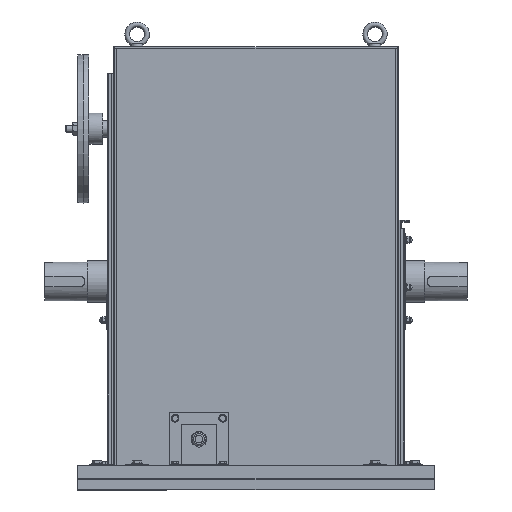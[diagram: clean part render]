
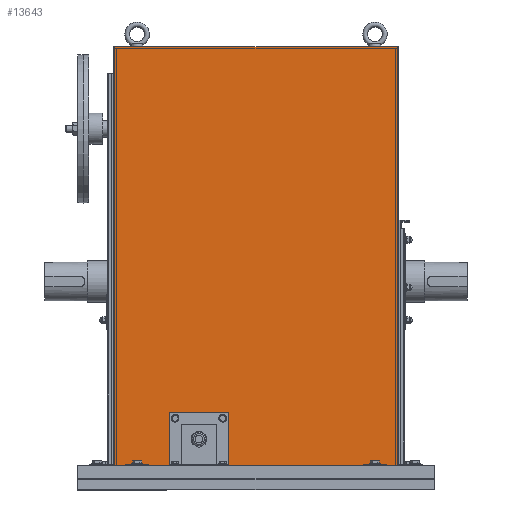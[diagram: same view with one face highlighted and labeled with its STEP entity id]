
A CAD part, top view. The second image highlights one B-rep face of the part: STEP entity #13643.
In plain terms, the highlighted planar face has unit normal (0, 0, 1).
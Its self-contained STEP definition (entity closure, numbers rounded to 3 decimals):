
#210 = VERTEX_POINT ( 'NONE', #5750 ) ;
#213 = VECTOR ( 'NONE', #25120, 1000. ) ;
#263 = EDGE_CURVE ( 'NONE', #29080, #210, #25592, .T. ) ;
#364 = VECTOR ( 'NONE', #23050, 1000. ) ;
#394 = CARTESIAN_POINT ( 'NONE',  ( 135., -308.2, 310. ) ) ;
#468 = PLANE ( 'NONE',  #2268 ) ;
#647 = EDGE_CURVE ( 'NONE', #14310, #11467, #23183, .T. ) ;
#648 = DIRECTION ( 'NONE',  ( -1., 0., 0. ) ) ;
#1472 = DIRECTION ( 'NONE',  ( 1., 0., 0. ) ) ;
#1512 = VECTOR ( 'NONE', #3067, 1000. ) ;
#1843 = ORIENTED_EDGE ( 'NONE', *, *, #28570, .T. ) ;
#1923 = CARTESIAN_POINT ( 'NONE',  ( 117.3, -310.5, 310. ) ) ;
#2268 = AXIS2_PLACEMENT_3D ( 'NONE', #25493, #9207, #22829 ) ;
#2277 = LINE ( 'NONE', #13532, #17997 ) ;
#2788 = CARTESIAN_POINT ( 'NONE',  ( 135., -310.5, 310. ) ) ;
#2888 = CARTESIAN_POINT ( 'NONE',  ( 175., -308.2, 310. ) ) ;
#2989 = CARTESIAN_POINT ( 'NONE',  ( 209., -310.5, 310. ) ) ;
#3067 = DIRECTION ( 'NONE',  ( 1., 0., 0. ) ) ;
#3277 = VECTOR ( 'NONE', #23341, 1000. ) ;
#3339 = VECTOR ( 'NONE', #1472, 1000. ) ;
#3530 = VECTOR ( 'NONE', #14129, 1000. ) ;
#3539 = VECTOR ( 'NONE', #7291, 1000. ) ;
#3541 = VERTEX_POINT ( 'NONE', #15079 ) ;
#4255 = CARTESIAN_POINT ( 'NONE',  ( 117.3, -310.5, 310. ) ) ;
#4289 = CARTESIAN_POINT ( 'NONE',  ( 175., -308.2, 310. ) ) ;
#4370 = CARTESIAN_POINT ( 'NONE',  ( 535., -308.2, 310. ) ) ;
#5104 = LINE ( 'NONE', #16656, #3530 ) ;
#5152 = ORIENTED_EDGE ( 'NONE', *, *, #5873, .T. ) ;
#5211 = CARTESIAN_POINT ( 'NONE',  ( 209., -220.5, 310. ) ) ;
#5231 = VECTOR ( 'NONE', #18623, 1000. ) ;
#5750 = CARTESIAN_POINT ( 'NONE',  ( 535., -310.5, 310. ) ) ;
#5873 = EDGE_CURVE ( 'NONE', #19861, #23997, #20769, .T. ) ;
#6329 = DIRECTION ( 'NONE',  ( 0., 1., 0. ) ) ;
#6416 = ORIENTED_EDGE ( 'NONE', *, *, #13320, .T. ) ;
#6628 = LINE ( 'NONE', #9432, #8134 ) ;
#6767 = CARTESIAN_POINT ( 'NONE',  ( 309., -310.5, 310. ) ) ;
#6787 = ORIENTED_EDGE ( 'NONE', *, *, #24002, .F. ) ;
#7196 = EDGE_CURVE ( 'NONE', #16390, #23096, #2277, .T. ) ;
#7291 = DIRECTION ( 'NONE',  ( 0., 1., 0. ) ) ;
#8134 = VECTOR ( 'NONE', #13577, 1000. ) ;
#9207 = DIRECTION ( 'NONE',  ( 0., 0., -1. ) ) ;
#9310 = DIRECTION ( 'NONE',  ( 0., -1., 0. ) ) ;
#9432 = CARTESIAN_POINT ( 'NONE',  ( 117.3, -310.5, 310. ) ) ;
#9803 = FACE_OUTER_BOUND ( 'NONE', #20287, .T. ) ;
#9896 = VECTOR ( 'NONE', #9310, 1000. ) ;
#10437 = VERTEX_POINT ( 'NONE', #2989 ) ;
#11213 = CARTESIAN_POINT ( 'NONE',  ( 592.7, 394.5, 310. ) ) ;
#11467 = VERTEX_POINT ( 'NONE', #4289 ) ;
#11883 = CARTESIAN_POINT ( 'NONE',  ( 592.7, -310.5, 310. ) ) ;
#11964 = CARTESIAN_POINT ( 'NONE',  ( 535., -308.2, 310. ) ) ;
#13264 = VECTOR ( 'NONE', #20239, 1000. ) ;
#13320 = EDGE_CURVE ( 'NONE', #11467, #21234, #21117, .T. ) ;
#13532 = CARTESIAN_POINT ( 'NONE',  ( 209., -220.5, 310. ) ) ;
#13577 = DIRECTION ( 'NONE',  ( 1., 0., 0. ) ) ;
#13643 = ADVANCED_FACE ( 'NONE', ( #9803 ), #468, .F. ) ;
#13648 = DIRECTION ( 'NONE',  ( 1., 0., 0. ) ) ;
#13818 = VERTEX_POINT ( 'NONE', #1923 ) ;
#14129 = DIRECTION ( 'NONE',  ( 1., 0., 0. ) ) ;
#14310 = VERTEX_POINT ( 'NONE', #394 ) ;
#14332 = CARTESIAN_POINT ( 'NONE',  ( 117.3, -310.5, 310. ) ) ;
#14390 = EDGE_CURVE ( 'NONE', #23087, #210, #20829, .T. ) ;
#15079 = CARTESIAN_POINT ( 'NONE',  ( 575., -310.5, 310. ) ) ;
#16390 = VERTEX_POINT ( 'NONE', #18147 ) ;
#16549 = CARTESIAN_POINT ( 'NONE',  ( 592.7, -310.5, 310. ) ) ;
#16656 = CARTESIAN_POINT ( 'NONE',  ( 117.3, -310.5, 310. ) ) ;
#17322 = ORIENTED_EDGE ( 'NONE', *, *, #7196, .F. ) ;
#17772 = ORIENTED_EDGE ( 'NONE', *, *, #27031, .F. ) ;
#17806 = LINE ( 'NONE', #26839, #24179 ) ;
#17869 = LINE ( 'NONE', #4255, #18955 ) ;
#17997 = VECTOR ( 'NONE', #648, 1000. ) ;
#18147 = CARTESIAN_POINT ( 'NONE',  ( 309., -220.5, 310. ) ) ;
#18263 = ORIENTED_EDGE ( 'NONE', *, *, #647, .T. ) ;
#18598 = CARTESIAN_POINT ( 'NONE',  ( 175., -310.5, 310. ) ) ;
#18611 = CARTESIAN_POINT ( 'NONE',  ( 535., -308.2, 310. ) ) ;
#18623 = DIRECTION ( 'NONE',  ( 1., 0., 0. ) ) ;
#18751 = CARTESIAN_POINT ( 'NONE',  ( 175., -308.2, 310. ) ) ;
#18758 = LINE ( 'NONE', #25718, #364 ) ;
#18955 = VECTOR ( 'NONE', #6329, 1000. ) ;
#19292 = CARTESIAN_POINT ( 'NONE',  ( 309., -310.5, 310. ) ) ;
#19639 = EDGE_CURVE ( 'NONE', #13818, #26638, #28436, .T. ) ;
#19664 = CARTESIAN_POINT ( 'NONE',  ( 117.3, 394.5, 310. ) ) ;
#19803 = EDGE_CURVE ( 'NONE', #23087, #26763, #23066, .T. ) ;
#19818 = ORIENTED_EDGE ( 'NONE', *, *, #263, .T. ) ;
#19861 = VERTEX_POINT ( 'NONE', #16549 ) ;
#20239 = DIRECTION ( 'NONE',  ( 0., 1., 0. ) ) ;
#20287 = EDGE_LOOP ( 'NONE', ( #17322, #6787, #19818, #25240, #25959, #24647, #26202, #5152, #24478, #29049, #26443, #17772, #18263, #6416, #1843, #23009 ) ) ;
#20769 = LINE ( 'NONE', #11883, #3539 ) ;
#20829 = LINE ( 'NONE', #18611, #213 ) ;
#20961 = DIRECTION ( 'NONE',  ( 1., 0., 0. ) ) ;
#21117 = LINE ( 'NONE', #18751, #3277 ) ;
#21234 = VERTEX_POINT ( 'NONE', #18598 ) ;
#22172 = LINE ( 'NONE', #27066, #27809 ) ;
#22381 = EDGE_CURVE ( 'NONE', #23096, #10437, #24857, .T. ) ;
#22618 = DIRECTION ( 'NONE',  ( 0., -1., 0. ) ) ;
#22645 = CARTESIAN_POINT ( 'NONE',  ( 209., -310.5, 310. ) ) ;
#22829 = DIRECTION ( 'NONE',  ( -1., 0., 0. ) ) ;
#23009 = ORIENTED_EDGE ( 'NONE', *, *, #22381, .F. ) ;
#23050 = DIRECTION ( 'NONE',  ( 0., -1., 0. ) ) ;
#23066 = LINE ( 'NONE', #11964, #5231 ) ;
#23087 = VERTEX_POINT ( 'NONE', #4370 ) ;
#23096 = VERTEX_POINT ( 'NONE', #5211 ) ;
#23183 = LINE ( 'NONE', #2888, #28942 ) ;
#23341 = DIRECTION ( 'NONE',  ( 0., -1., 0. ) ) ;
#23781 = EDGE_CURVE ( 'NONE', #13818, #23788, #17869, .T. ) ;
#23788 = VERTEX_POINT ( 'NONE', #19664 ) ;
#23997 = VERTEX_POINT ( 'NONE', #11213 ) ;
#24002 = EDGE_CURVE ( 'NONE', #29080, #16390, #27063, .T. ) ;
#24179 = VECTOR ( 'NONE', #13648, 1000. ) ;
#24410 = CARTESIAN_POINT ( 'NONE',  ( 117.3, -310.5, 310. ) ) ;
#24478 = ORIENTED_EDGE ( 'NONE', *, *, #24738, .F. ) ;
#24647 = ORIENTED_EDGE ( 'NONE', *, *, #26893, .T. ) ;
#24738 = EDGE_CURVE ( 'NONE', #23788, #23997, #17806, .T. ) ;
#24857 = LINE ( 'NONE', #22645, #9896 ) ;
#25081 = EDGE_CURVE ( 'NONE', #3541, #19861, #6628, .T. ) ;
#25120 = DIRECTION ( 'NONE',  ( 0., -1., 0. ) ) ;
#25240 = ORIENTED_EDGE ( 'NONE', *, *, #14390, .F. ) ;
#25493 = CARTESIAN_POINT ( 'NONE',  ( 117.3, -310.5, 310. ) ) ;
#25592 = LINE ( 'NONE', #14332, #1512 ) ;
#25718 = CARTESIAN_POINT ( 'NONE',  ( 135., -308.2, 310. ) ) ;
#25959 = ORIENTED_EDGE ( 'NONE', *, *, #19803, .T. ) ;
#26047 = CARTESIAN_POINT ( 'NONE',  ( 575., -308.2, 310. ) ) ;
#26202 = ORIENTED_EDGE ( 'NONE', *, *, #25081, .T. ) ;
#26443 = ORIENTED_EDGE ( 'NONE', *, *, #19639, .T. ) ;
#26638 = VERTEX_POINT ( 'NONE', #2788 ) ;
#26763 = VERTEX_POINT ( 'NONE', #26047 ) ;
#26839 = CARTESIAN_POINT ( 'NONE',  ( 117.3, 394.5, 310. ) ) ;
#26893 = EDGE_CURVE ( 'NONE', #26763, #3541, #22172, .T. ) ;
#27031 = EDGE_CURVE ( 'NONE', #14310, #26638, #18758, .T. ) ;
#27063 = LINE ( 'NONE', #6767, #13264 ) ;
#27066 = CARTESIAN_POINT ( 'NONE',  ( 575., -308.2, 310. ) ) ;
#27809 = VECTOR ( 'NONE', #22618, 1000. ) ;
#28436 = LINE ( 'NONE', #24410, #3339 ) ;
#28570 = EDGE_CURVE ( 'NONE', #21234, #10437, #5104, .T. ) ;
#28942 = VECTOR ( 'NONE', #20961, 1000. ) ;
#29049 = ORIENTED_EDGE ( 'NONE', *, *, #23781, .F. ) ;
#29080 = VERTEX_POINT ( 'NONE', #19292 ) ;
